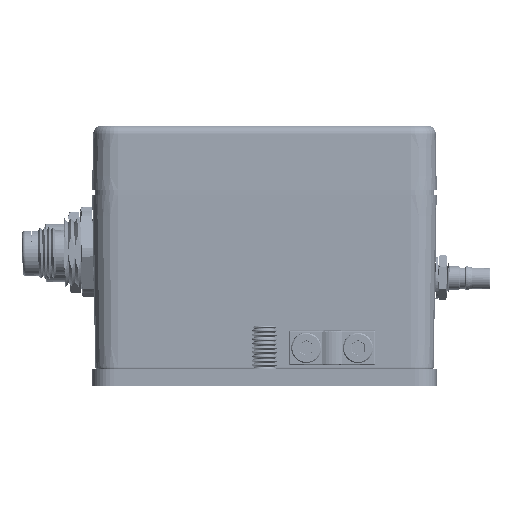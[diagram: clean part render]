
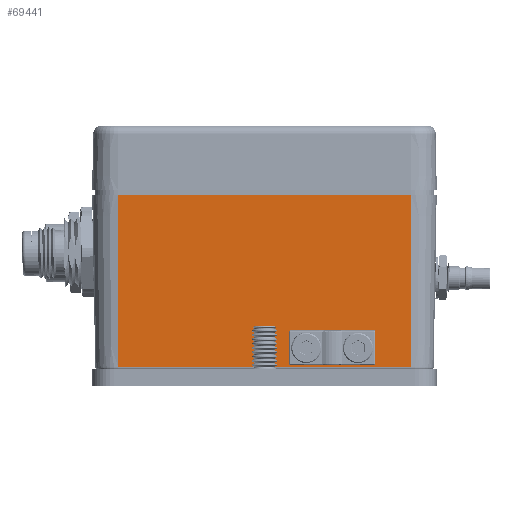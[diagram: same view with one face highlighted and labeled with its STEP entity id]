
A CAD part, left-side view. The second image highlights one B-rep face of the part: STEP entity #69441.
In plain terms, the highlighted planar face has unit normal (-1, 0, -0.018).
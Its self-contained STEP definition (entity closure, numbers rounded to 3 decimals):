
#929=FACE_BOUND('',#11942,.T.);
#930=FACE_BOUND('',#11943,.T.);
#4186=PLANE('',#74901);
#7913=FACE_OUTER_BOUND('',#11941,.T.);
#11941=EDGE_LOOP('',(#58025,#58026,#58027,#58028));
#11942=EDGE_LOOP('',(#58029,#58030));
#11943=EDGE_LOOP('',(#58031,#58032));
#17571=LINE('',#120530,#23237);
#17572=LINE('',#120533,#23238);
#17573=LINE('',#120537,#23239);
#17574=LINE('',#120538,#23240);
#23237=VECTOR('',#89669,1.);
#23238=VECTOR('',#89672,1.);
#23239=VECTOR('',#89677,1.);
#23240=VECTOR('',#89678,1.);
#26297=CIRCLE('',#73597,1.873);
#26320=CIRCLE('',#73649,1.873);
#26332=CIRCLE('',#73670,1.873);
#26350=CIRCLE('',#73717,1.873);
#30152=VERTEX_POINT('',#113774);
#30153=VERTEX_POINT('',#113775);
#30199=VERTEX_POINT('',#113938);
#30200=VERTEX_POINT('',#113939);
#32252=VERTEX_POINT('',#120442);
#32278=VERTEX_POINT('',#120525);
#32279=VERTEX_POINT('',#120532);
#32280=VERTEX_POINT('',#120536);
#38136=EDGE_CURVE('',#30152,#30153,#26297,.T.);
#38199=EDGE_CURVE('',#30153,#30152,#26320,.T.);
#38215=EDGE_CURVE('',#30199,#30200,#26332,.T.);
#38273=EDGE_CURVE('',#30200,#30199,#26350,.T.);
#41335=EDGE_CURVE('',#32252,#32278,#17571,.T.);
#41336=EDGE_CURVE('',#32279,#32278,#17572,.T.);
#41338=EDGE_CURVE('',#32280,#32252,#17573,.T.);
#41339=EDGE_CURVE('',#32280,#32279,#17574,.T.);
#58025=ORIENTED_EDGE('',*,*,#41335,.F.);
#58026=ORIENTED_EDGE('',*,*,#41338,.F.);
#58027=ORIENTED_EDGE('',*,*,#41339,.T.);
#58028=ORIENTED_EDGE('',*,*,#41336,.T.);
#58029=ORIENTED_EDGE('',*,*,#38136,.T.);
#58030=ORIENTED_EDGE('',*,*,#38199,.T.);
#58031=ORIENTED_EDGE('',*,*,#38215,.T.);
#58032=ORIENTED_EDGE('',*,*,#38273,.T.);
#69441=ADVANCED_FACE('',(#7913,#929,#930),#4186,.T.);
#73597=AXIS2_PLACEMENT_3D('',#113776,#84082,#84083);
#73649=AXIS2_PLACEMENT_3D('',#113902,#84226,#84227);
#73670=AXIS2_PLACEMENT_3D('',#113940,#84272,#84273);
#73717=AXIS2_PLACEMENT_3D('',#114056,#84406,#84407);
#74901=AXIS2_PLACEMENT_3D('',#120535,#89675,#89676);
#84082=DIRECTION('center_axis',(1.,0.,
0.017));
#84083=DIRECTION('ref_axis',(0.,-1.,0.));
#84226=DIRECTION('center_axis',(1.,0.,
0.017));
#84227=DIRECTION('ref_axis',(0.,-1.,0.));
#84272=DIRECTION('center_axis',(1.,0.,
0.017));
#84273=DIRECTION('ref_axis',(0.,1.,0.));
#84406=DIRECTION('center_axis',(1.,0.,
0.017));
#84407=DIRECTION('ref_axis',(0.,1.,0.));
#89669=DIRECTION('',(0.,1.,0.));
#89672=DIRECTION('',(0.017,0.,-1.));
#89675=DIRECTION('center_axis',(-1.,0.,
-0.017));
#89676=DIRECTION('ref_axis',(0.,1.,0.));
#89677=DIRECTION('',(0.017,0.,-1.));
#89678=DIRECTION('',(0.,1.,0.));
#113774=CARTESIAN_POINT('',(-276.863,-118.596,-36.519));
#113775=CARTESIAN_POINT('',(-276.863,-114.85,-36.519));
#113776=CARTESIAN_POINT('Origin',(-276.863,-116.723,-36.519));
#113902=CARTESIAN_POINT('Origin',(-276.863,-116.723,-36.519));
#113938=CARTESIAN_POINT('',(-276.863,-106.596,-36.519));
#113939=CARTESIAN_POINT('',(-276.863,-102.85,-36.519));
#113940=CARTESIAN_POINT('Origin',(-276.863,-104.723,-36.519));
#114056=CARTESIAN_POINT('Origin',(-276.863,-104.723,-36.519));
#120442=CARTESIAN_POINT('',(-276.784,-129.,-41.017));
#120525=CARTESIAN_POINT('',(-276.784,-61.,-41.017));
#120530=CARTESIAN_POINT('',(-276.784,-95.,-41.017));
#120532=CARTESIAN_POINT('',(-277.483,-61.,-1.));
#120533=CARTESIAN_POINT('',(-277.5,-61.,0.));
#120535=CARTESIAN_POINT('Origin',(-277.5,-95.,0.));
#120536=CARTESIAN_POINT('',(-277.483,-129.,-1.));
#120537=CARTESIAN_POINT('',(-277.5,-129.,0.));
#120538=CARTESIAN_POINT('',(-277.483,-95.,-1.));
